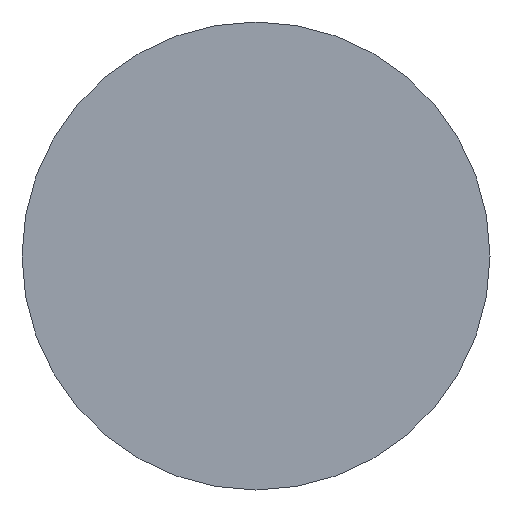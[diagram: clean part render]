
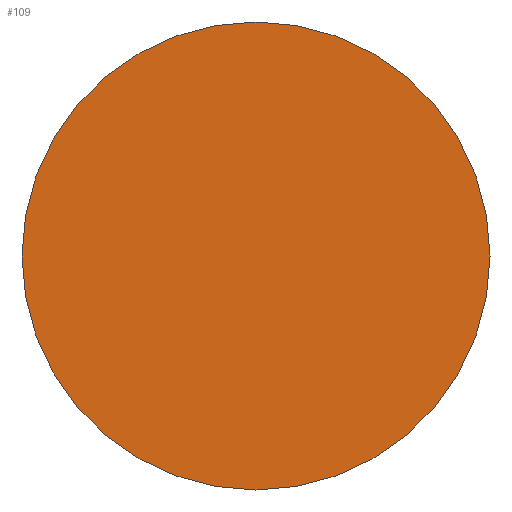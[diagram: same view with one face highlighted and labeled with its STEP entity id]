
A CAD part, front view. The second image highlights one B-rep face of the part: STEP entity #109.
In plain terms, the highlighted planar face has unit normal (0, -1, 0).
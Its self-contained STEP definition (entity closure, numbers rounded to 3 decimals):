
#24 = VERTEX_POINT('',#25);
#25 = CARTESIAN_POINT('',(11.,-34.,75.));
#32 = CYLINDRICAL_SURFACE('',#33,11.);
#33 = AXIS2_PLACEMENT_3D('',#34,#35,#36);
#34 = CARTESIAN_POINT('',(0.,-4.,75.));
#35 = DIRECTION('',(-0.,1.,-0.));
#36 = DIRECTION('',(1.,0.,0.));
#51 = EDGE_CURVE('',#24,#24,#52,.T.);
#52 = SURFACE_CURVE('',#53,(#58,#65),.PCURVE_S1.);
#53 = CIRCLE('',#54,11.);
#54 = AXIS2_PLACEMENT_3D('',#55,#56,#57);
#55 = CARTESIAN_POINT('',(0.,-34.,75.));
#56 = DIRECTION('',(0.,-1.,0.));
#57 = DIRECTION('',(1.,0.,0.));
#58 = PCURVE('',#32,#59);
#59 = DEFINITIONAL_REPRESENTATION('',(#60),#64);
#60 = LINE('',#61,#62);
#61 = CARTESIAN_POINT('',(-0.,-30.));
#62 = VECTOR('',#63,1.);
#63 = DIRECTION('',(-1.,0.));
#64 = ( GEOMETRIC_REPRESENTATION_CONTEXT(2) 
PARAMETRIC_REPRESENTATION_CONTEXT() REPRESENTATION_CONTEXT('2D SPACE',''
  ) );
#65 = PCURVE('',#66,#71);
#66 = PLANE('',#67);
#67 = AXIS2_PLACEMENT_3D('',#68,#69,#70);
#68 = CARTESIAN_POINT('',(0.,-34.,75.));
#69 = DIRECTION('',(-0.,-1.,-0.));
#70 = DIRECTION('',(0.,0.,-1.));
#71 = DEFINITIONAL_REPRESENTATION('',(#72),#76);
#72 = CIRCLE('',#73,11.);
#73 = AXIS2_PLACEMENT_2D('',#74,#75);
#74 = CARTESIAN_POINT('',(0.,0.));
#75 = DIRECTION('',(0.,1.));
#76 = ( GEOMETRIC_REPRESENTATION_CONTEXT(2) 
PARAMETRIC_REPRESENTATION_CONTEXT() REPRESENTATION_CONTEXT('2D SPACE',''
  ) );
#109 = ADVANCED_FACE('',(#110),#66,.T.);
#110 = FACE_BOUND('',#111,.T.);
#111 = EDGE_LOOP('',(#112));
#112 = ORIENTED_EDGE('',*,*,#51,.T.);
